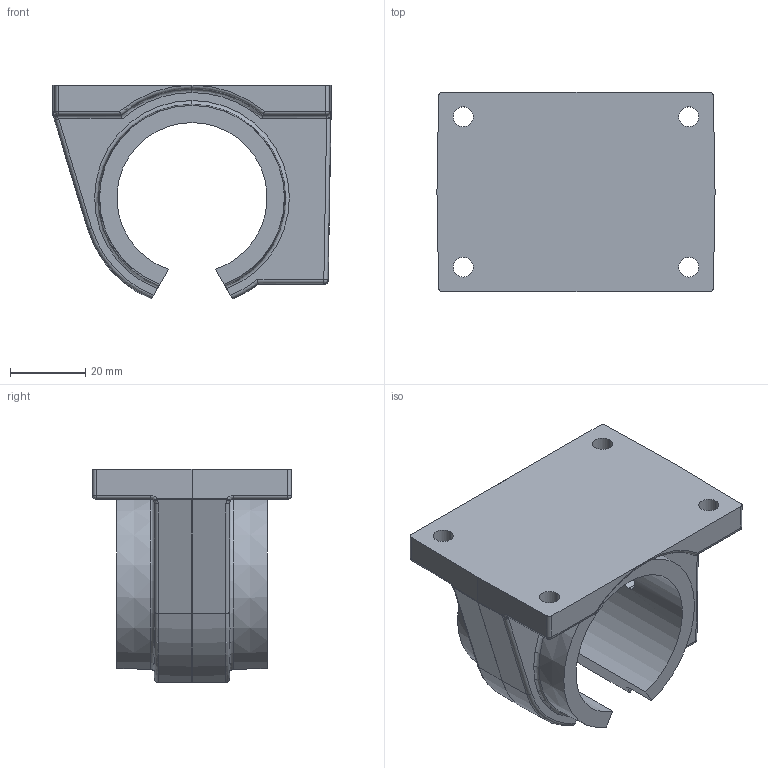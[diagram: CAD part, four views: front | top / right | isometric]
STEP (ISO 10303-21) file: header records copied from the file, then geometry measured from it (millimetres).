
FILE_DESCRIPTION (( 'STEP AP203' ), '1' );
FILE_NAME ('KGGO67-25.step', '2020-03-10T16:29:19', ( '' ), ( '' ), 'SwSTEP 2.0', 'SolidWorks 2019', '' );
FILE_SCHEMA (( 'CONFIG_CONTROL_DESIGN' ));
Length unit declared in the file: millimetre
Products named in the file (2): KGGO67-25
Bounding box: 73.98 x 53 x 56.91 mm (x, y, z)
Volume: 69580.1 mm3; surface area: 22460.2 mm2
Topology: 1 solids, 1 shells, 126 faces, 300 edges, 178 vertices
Faces by surface type: cylinder 54, plane 30, torus 18, sphere 9, bspline 8, cone 7
Entity records: 4076 total; most frequent: CARTESIAN_POINT 1081, DIRECTION 608, ORIENTED_EDGE 596, EDGE_CURVE 298, AXIS2_PLACEMENT_3D 249, VERTEX_POINT 178, EDGE_LOOP 140, CIRCLE 129
